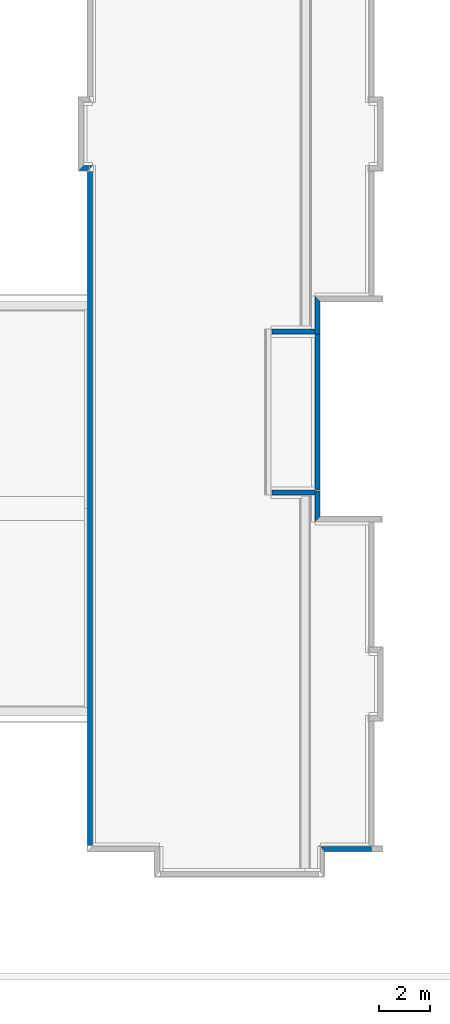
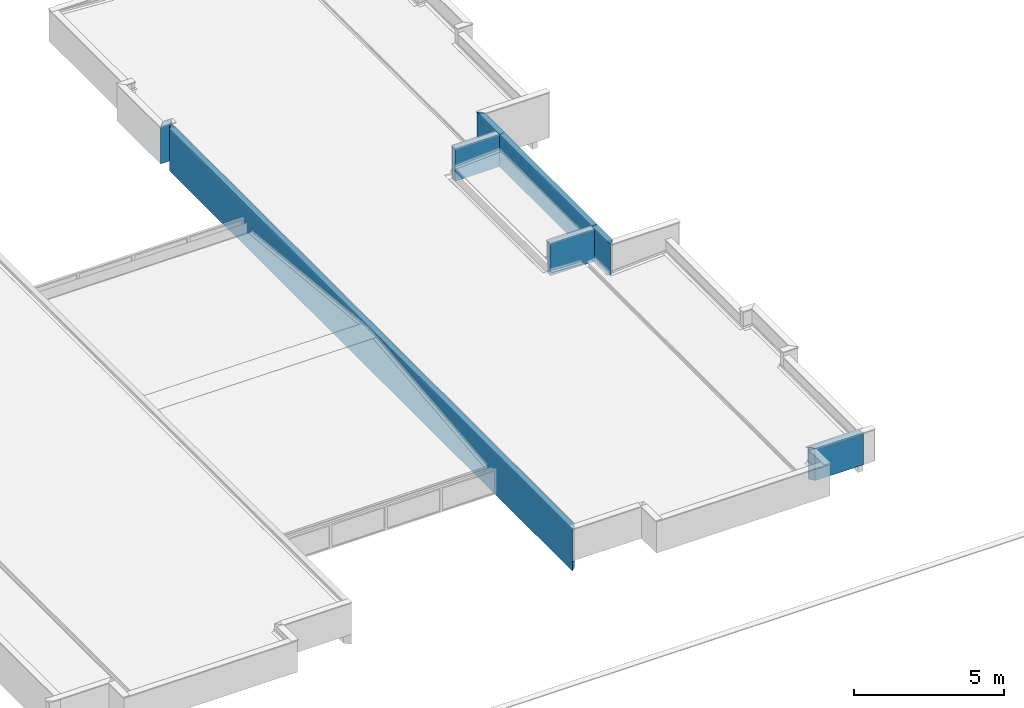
# One storey, part 4 of 25: 8 walls, 3 openings.
"""IFC4 building model written with IfcOpenShell, lengths in metres."""

from ifc_helpers import new_model, entity, si_unit, converted_unit, derived_unit, direction, frame, origin_with_axes, origin_2d_with_axis, place, context, subcontext, project, spatial, line, indexed_curve, rectangle, outline, extrude, polygons, material, layer, layer_set, layer_usage, type_object, element, save


model = new_model("IFC4")

# Units and contexts
model_context = context("Model", 3, precision=1e-05, world=origin_with_axes(), true_north=direction((0.0, 1.0)))
body_context = subcontext(model_context, "Body", "Model", "MODEL_VIEW")
ifc_project = project(units=[si_unit("LENGTHUNIT", "METRE"), si_unit("AREAUNIT", "SQUARE_METRE"), si_unit("VOLUMEUNIT", "CUBIC_METRE"), converted_unit("PLANEANGLEUNIT", "DEGREE", entity("IfcPlaneAngleMeasure", 0.0174532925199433), si_unit("PLANEANGLEUNIT", "RADIAN"), dimensions=[0, 0, 0, 0, 0, 0, 0]), converted_unit("TIMEUNIT", "Year", entity("IfcTimeMeasure", 31557600.0), si_unit("TIMEUNIT", "SECOND"), dimensions=[0, 0, 1, 0, 0, 0, 0]), si_unit("MASSUNIT", "GRAM", prefix="KILO"), si_unit("THERMODYNAMICTEMPERATUREUNIT", "DEGREE_CELSIUS"), si_unit("LUMINOUSINTENSITYUNIT", "LUMEN"), si_unit("ENERGYUNIT", "JOULE", prefix="MEGA"), derived_unit("THERMALCONDUCTANCEUNIT", [(si_unit("POWERUNIT", "WATT"), 1), (si_unit("LENGTHUNIT", "METRE"), -1), (si_unit("THERMODYNAMICTEMPERATUREUNIT", "KELVIN"), -1)]), derived_unit("SPECIFICHEATCAPACITYUNIT", [(si_unit("ENERGYUNIT", "JOULE"), 1), (si_unit("MASSUNIT", "GRAM", prefix="KILO"), -1), (si_unit("THERMODYNAMICTEMPERATUREUNIT", "KELVIN"), -1)]), derived_unit("MASSDENSITYUNIT", [(si_unit("MASSUNIT", "GRAM", prefix="KILO"), 1), (si_unit("VOLUMEUNIT", "CUBIC_METRE"), -1)])], contexts=[model_context])

# Site, building, storey
site_placement = place(None, origin_with_axes())
site = spatial("IfcSite", under=ifc_project, at=site_placement, Name="PADRÃO", CompositionType="ELEMENT")
building_placement = place(site_placement, origin_with_axes())
building = spatial("IfcBuilding", under=site, at=building_placement, Name="CRECHE PRÉ-ESCOLA TIPO 2", CompositionType="ELEMENT")
storey_placement = place(building_placement, frame((0.0, 0.0, 3.26), z_axis=(0.0, 0.0, 1.0), x_axis=(1.0, 0.0, 0.0)))
storey = spatial("IfcBuildingStorey", under=building, at=storey_placement, Name="COBERTURA", CompositionType="ELEMENT", Elevation=3.26)

# Wall
ifc_material_1 = material(Name="EI-REV-Pintura Acrílica Cor Cinza")
ifc_layer_1 = layer(ifc_material_1, 0.015, ventilated="UNKNOWN", Name="EI-REV-Pintura Acrílica Cor Cinza")
ifc_material_2 = material(Name="EI-REV-Massa Acrílica (externa)")
ifc_layer_2 = layer(ifc_material_2, 0.005, ventilated="UNKNOWN", Name="EI-REV-Massa Acrílica (externa) 1")
ifc_material_3 = material(Name="EI-REV-Massa única - Fachada")
ifc_layer_3 = layer(ifc_material_3, 0.005, ventilated="UNKNOWN", Name="EI-REV-Massa única - Fachada 1")
ifc_material_4 = material(Name="EI-REV-Chapisco (externo)")
ifc_layer_4 = layer(ifc_material_4, 0.005, ventilated="UNKNOWN", Name="EI-REV-Chapisco (externo) 1")
ifc_material_5 = material(Name="TIJOLO - CERAMICO 14x19x39 - espessura 20cm")
ifc_layer_5 = layer(ifc_material_5, 0.14, ventilated="UNKNOWN", Name="TIJOLO - CERAMICO 14x19x39 - espessura 20cm")
ifc_layer_6 = layer(ifc_material_4, 0.005, ventilated="UNKNOWN", Name="EI-REV-Chapisco (externo) 2")
ifc_layer_7 = layer(ifc_material_3, 0.005, ventilated="UNKNOWN", Name="EI-REV-Massa única - Fachada 2")
ifc_layer_8 = layer(ifc_material_2, 0.005, ventilated="UNKNOWN", Name="EI-REV-Massa Acrílica (externa) 2")
ifc_material_6 = material(Name="EI-REV-Pintura Acrílica Cor Branco Gelo")
ifc_layer_9 = layer(ifc_material_6, 0.015, ventilated="UNKNOWN", Name="EI-REV-Pintura Acrílica Cor Branco Gelo")
ifc_layer_set_1 = layer_set([ifc_layer_1, ifc_layer_2, ifc_layer_3, ifc_layer_4, ifc_layer_5, ifc_layer_6, ifc_layer_7, ifc_layer_8, ifc_layer_9], Name="FNDE-PLAT_AL14-Pintura cinza-branca")
ifc_layer_usage_1 = layer_usage(ifc_layer_set_1, "AXIS2", "POSITIVE", -0.1)
wall_type_1 = type_object("IfcWallType", Name="FNDE-PLAT_AL14-Pintura cinza-branca 200", PredefinedType="NOTDEFINED")
wall_1_placement = place(storey_placement, frame((-8.27504276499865, 5.15015602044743, 0.0), z_axis=(0.0, 0.0, 1.0), x_axis=(1.0, 0.0, 0.0)))
element("IfcWall", 1, at=wall_1_placement, inside=storey, type_object=wall_type_1, material=ifc_layer_usage_1, Name="AL14", PredefinedType="NOTDEFINED", context=body_context, shape_type="SweptSolid", body=[
    extrude(outline(indexed_curve([(0.0749999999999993, -0.0999999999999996), (1.93499987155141, -0.0999999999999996), (1.93499987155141, 0.100000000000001), (-0.0749999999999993, 0.100000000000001)], segments=[line(1, 2, 3, 4, 1)])), origin_with_axes(), (0.0, 0.0, 1.0), 1.31),
])

# Wall, opening
ifc_layer_10 = layer(ifc_material_6, 0.015, ventilated="UNKNOWN", Name="EI-REV-Pintura Acrílica Cor Branco Gelo 1")
ifc_layer_11 = layer(ifc_material_2, 0.005, ventilated="UNKNOWN", Name="EI-REV-Massa Acrílica (externa) 1")
ifc_layer_12 = layer(ifc_material_3, 0.005, ventilated="UNKNOWN", Name="EI-REV-Massa única - Fachada 1")
ifc_layer_13 = layer(ifc_material_4, 0.005, ventilated="UNKNOWN", Name="EI-REV-Chapisco (externo) 1")
ifc_layer_14 = layer(ifc_material_5, 0.14, ventilated="UNKNOWN", Name="TIJOLO - CERAMICO 14x19x39 - espessura 20cm")
ifc_layer_15 = layer(ifc_material_4, 0.005, ventilated="UNKNOWN", Name="EI-REV-Chapisco (externo) 2")
ifc_layer_16 = layer(ifc_material_3, 0.005, ventilated="UNKNOWN", Name="EI-REV-Massa única - Fachada 2")
ifc_layer_17 = layer(ifc_material_2, 0.005, ventilated="UNKNOWN", Name="EI-REV-Massa Acrílica (externa) 2")
ifc_layer_18 = layer(ifc_material_6, 0.015, ventilated="UNKNOWN", Name="EI-REV-Pintura Acrílica Cor Branco Gelo 2")
ifc_layer_set_2 = layer_set([ifc_layer_10, ifc_layer_11, ifc_layer_12, ifc_layer_13, ifc_layer_14, ifc_layer_15, ifc_layer_16, ifc_layer_17, ifc_layer_18], Name="FNDE-PLAT_AL14-Pintura Branca")
ifc_layer_usage_2 = layer_usage(ifc_layer_set_2, "AXIS2", "NEGATIVE", 0.1)
wall_type_2 = type_object("IfcWallType", Name="FNDE-PLAT_AL14-Pintura Branca 200", PredefinedType="NOTDEFINED")
wall_2_placement = place(storey_placement, frame((-8.47005175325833, 25.5501560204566, 0.54000000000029), z_axis=(0.0, 0.0, 1.0), x_axis=(-1.0, 0.0, 0.0)))
wall_2 = element("IfcWall", 2, at=wall_2_placement, inside=storey, type_object=wall_type_2, material=ifc_layer_usage_2, Name="AL14", PredefinedType="NOTDEFINED", context=body_context, shape_type="SweptSolid", body=[
    extrude(outline(indexed_curve([(0.100000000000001, -0.100000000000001), (1.81996619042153, -0.100000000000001), (1.81996619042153, 0.0999999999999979), (0.100000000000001, 0.0999999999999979)], segments=[line(1, 2, 3, 4, 1)])), origin_with_axes(), (0.0, 0.0, 1.0), 1.32),
])
opening_1_placement = place(wall_2_placement, frame((1.81996619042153, 0.0, 0.0), z_axis=(0.0, 0.0, 1.0), x_axis=(1.0, 0.0, 0.0)))
element("IfcOpeningElement", 3, at=opening_1_placement, cuts=wall_2, Name="AL09", ObjectType="Recess", context=body_context, shape_type="SweptSolid", body=[
    extrude(rectangle(XDim=0.184999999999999, YDim=0.0150000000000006, at=origin_2d_with_axis()), frame((-0.00750000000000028, 0.00750000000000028, 0.0), z_axis=(0.0, 0.0, 1.0), x_axis=(0.0, -1.0, 0.0)), (0.0, 0.0, 1.0), 1.32),
    extrude(rectangle(XDim=0.169999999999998, YDim=0.00499999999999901, at=origin_2d_with_axis()), frame((-0.0174999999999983, 0.0, 0.0), z_axis=(0.0, 0.0, 1.0), x_axis=(0.0, -1.0, 0.0)), (0.0, 0.0, 1.0), 1.32),
    extrude(rectangle(XDim=0.164999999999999, YDim=0.00499999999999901, at=origin_2d_with_axis()), frame((-0.0225000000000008, -0.00250000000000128, 0.0), z_axis=(0.0, 0.0, 1.0), x_axis=(0.0, -1.0, 0.0)), (0.0, 0.0, 1.0), 1.32),
])

ifc_layer_usage_3 = layer_usage(ifc_layer_set_2, "AXIS2", "NEGATIVE", 0.1)
wall_3_placement = place(storey_placement, frame((-10.290017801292, 19.2001560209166, 0.540000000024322), z_axis=(0.0, 0.0, 1.0), x_axis=(1.0, 0.0, 0.0)))
wall_3 = element("IfcWall", 4, at=wall_3_placement, inside=storey, type_object=wall_type_2, material=ifc_layer_usage_3, Name="AL14", PredefinedType="NOTDEFINED", context=body_context, shape_type="SweptSolid", body=[
    extrude(outline(indexed_curve([(0.0, -0.100000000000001), (1.71996604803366, -0.100000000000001), (1.71996604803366, 0.0999999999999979), (0.0, 0.0999999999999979)], segments=[line(1, 2, 3, 4, 1)])), origin_with_axes(), (0.0, 0.0, 1.0), 1.32),
])
opening_2_placement = place(wall_3_placement, origin_with_axes())
element("IfcOpeningElement", 5, at=opening_2_placement, cuts=wall_3, Name="AL09", ObjectType="Recess", context=body_context, shape_type="SweptSolid", body=[
    extrude(rectangle(XDim=0.184999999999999, YDim=0.0150000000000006, at=origin_2d_with_axis()), frame((0.00750000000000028, 0.00749999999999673, 0.0), z_axis=(0.0, 0.0, 1.0), x_axis=(0.0, 1.0, 0.0)), (0.0, 0.0, 1.0), 1.32),
    extrude(rectangle(XDim=0.169999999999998, YDim=0.00499999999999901, at=origin_2d_with_axis()), frame((0.0174999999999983, 0.0, 0.0), z_axis=(0.0, 0.0, 1.0), x_axis=(0.0, 1.0, 0.0)), (0.0, 0.0, 1.0), 1.32),
    extrude(rectangle(XDim=0.164999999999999, YDim=0.00499999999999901, at=origin_2d_with_axis()), frame((0.0225000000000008, -0.00250000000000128, 0.0), z_axis=(0.0, 0.0, 1.0), x_axis=(0.0, 1.0, 0.0)), (0.0, 0.0, 1.0), 1.32),
])

# Wall
ifc_layer_usage_4 = layer_usage(ifc_layer_set_2, "AXIS2", "NEGATIVE", 0.1)
wall_4_placement = place(storey_placement, frame((-17.4400505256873, 5.15015602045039, -0.41), z_axis=(0.0, 0.0, 1.0), x_axis=(0.0, 1.0, 0.0)))
element("IfcWall", 6, at=wall_4_placement, inside=storey, type_object=wall_type_2, material=ifc_layer_usage_4, Name="AL14", PredefinedType="NOTDEFINED", context=body_context, shape_type="SweptSolid", body=[
    extrude(outline(indexed_curve([(0.100000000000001, -0.100000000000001), (26.9500323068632, -0.100000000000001), (26.7500323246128, 0.0999999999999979), (-0.100000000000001, 0.0999999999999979)], segments=[line(1, 2, 3, 4, 1)])), origin_with_axes(), (0.0, 0.0, 1.0), 1.72),
])

# Wall, opening
ifc_layer_usage_5 = layer_usage(ifc_layer_set_2, "AXIS2", "NEGATIVE", 0.1)
wall_5_placement = place(storey_placement, frame((-17.4400505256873, 32.0001883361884, 0.0), z_axis=(0.0, 0.0, 1.0), x_axis=(-0.999999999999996, 8.87479161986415e-08, 0.0)))
wall_5 = element("IfcWall", 7, at=wall_5_placement, inside=storey, type_object=wall_type_2, material=ifc_layer_usage_5, Name="AL14", PredefinedType="NOTDEFINED", context=body_context, shape_type="SweptSolid", body=[
    extrude(outline(indexed_curve([(-0.0999999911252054, -0.100000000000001), (0.249961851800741, -0.100000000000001), (0.449961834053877, 0.0999999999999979), (0.0999999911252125, 0.0999999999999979)], segments=[line(1, 2, 3, 4, 1)])), origin_with_axes(), (0.0, 0.0, 1.0), 1.51),
])
opening_3_placement = place(wall_5_placement, origin_with_axes())
element("IfcOpeningElement", 8, at=opening_3_placement, cuts=wall_5, Name="AL14", ObjectType="Recess", context=body_context, shape_type="Tessellation", body=[
    polygons([(0.0199999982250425, -0.0799999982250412, 0.0), (0.0199999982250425, -0.0799999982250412, 1.51), (0.01999999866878, -0.0849999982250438, 1.51), (0.01999999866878, -0.0849999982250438, 0.0), (0.0249999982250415, -0.0799999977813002, 0.0), (0.0249999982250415, -0.0799999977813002, 1.51), (-8.87478890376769e-09, -8.87479956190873e-09, 1.51), (0.0, -0.100000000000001, 1.51), (0.0150000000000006, -0.0999999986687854, 1.51), (0.014999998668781, -0.0849999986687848, 1.51), (0.0249999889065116, 0.0249999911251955, 1.51), (0.014999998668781, -0.0849999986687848, 0.0), (0.0150000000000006, -0.0999999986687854, 0.0), (0.0, -0.100000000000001, 0.0), (-8.87478890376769e-09, -8.87479956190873e-09, 0.0), (0.0249999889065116, 0.0249999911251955, 0.0)], [[[1, 2, 3, 4]], [[2, 1, 5, 6]], [[7, 8, 9, 10, 3, 2, 6, 11]], [[10, 12, 4, 3]], [[1, 4, 12, 13, 14, 15, 16, 5]], [[11, 6, 5, 16]], [[8, 7, 15, 14]], [[9, 8, 14, 13]], [[12, 10, 9, 13]], [[11, 16, 15, 7]]], closed=True),
])

# Walls
ifc_material_7 = material(Name="EI-REV-Pintura Acrílica Cor Vermelho Externa")
ifc_layer_19 = layer(ifc_material_7, 0.015, ventilated="UNKNOWN", Name="EI-REV-Pintura Acrílica Cor Vermelho Externa")
ifc_layer_20 = layer(ifc_material_2, 0.005, ventilated="UNKNOWN", Name="EI-REV-Massa Acrílica (externa) 1")
ifc_layer_21 = layer(ifc_material_3, 0.005, ventilated="UNKNOWN", Name="EI-REV-Massa única - Fachada 1")
ifc_layer_22 = layer(ifc_material_4, 0.005, ventilated="UNKNOWN", Name="EI-REV-Chapisco (externo) 1")
ifc_layer_23 = layer(ifc_material_5, 0.14, ventilated="UNKNOWN", Name="TIJOLO - CERAMICO 14x19x39 - espessura 20cm")
ifc_layer_24 = layer(ifc_material_4, 0.005, ventilated="UNKNOWN", Name="EI-REV-Chapisco (externo) 2")
ifc_layer_25 = layer(ifc_material_3, 0.005, ventilated="UNKNOWN", Name="EI-REV-Massa única - Fachada 2")
ifc_layer_26 = layer(ifc_material_2, 0.005, ventilated="UNKNOWN", Name="EI-REV-Massa Acrílica (externa) 2")
ifc_layer_27 = layer(ifc_material_6, 0.015, ventilated="UNKNOWN", Name="EI-REV-Pintura Acrílica Cor Branco Gelo")
ifc_layer_set_3 = layer_set([ifc_layer_19, ifc_layer_20, ifc_layer_21, ifc_layer_22, ifc_layer_23, ifc_layer_24, ifc_layer_25, ifc_layer_26, ifc_layer_27], Name="FNDE-PLAT_AL14-E4 (Pintura vermelha)")
ifc_layer_usage_6 = layer_usage(ifc_layer_set_3, "AXIS2", "NEGATIVE", 0.1)
wall_type_3 = type_object("IfcWallType", Name="FNDE-PLAT_AL14-E4 (Pintura vermelha) 200", PredefinedType="NOTDEFINED")
wall_6_placement = place(storey_placement, frame((-8.47005175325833, 19.2701560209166, 0.540672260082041), z_axis=(0.0, 0.0, 1.0), x_axis=(0.0, -1.0, 0.0)))
element("IfcWall", 9, at=wall_6_placement, inside=storey, type_object=wall_type_3, material=ifc_layer_usage_6, Name="AL14", PredefinedType="NOTDEFINED", context=body_context, shape_type="SweptSolid", body=[
    extrude(outline(indexed_curve([(0.0, -0.100000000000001), (1.2200012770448, -0.100000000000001), (1.02000127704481, 0.0999999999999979), (0.0, 0.0999999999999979)], segments=[line(1, 2, 3, 4, 1)])), origin_with_axes(), (0.0, 0.0, 1.0), 1.32),
])
ifc_layer_usage_7 = layer_usage(ifc_layer_set_3, "AXIS2", "NEGATIVE", 0.1)
wall_7_placement = place(storey_placement, frame((-8.47005175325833, 26.8501567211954, 0.54000000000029), z_axis=(0.0, 0.0, 1.0), x_axis=(0.0, -1.0, 0.0)))
element("IfcWall", 10, at=wall_7_placement, inside=storey, type_object=wall_type_3, material=ifc_layer_usage_7, Name="AL14", PredefinedType="NOTDEFINED", context=body_context, shape_type="SweptSolid", body=[
    extrude(outline(indexed_curve([(-0.100000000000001, -0.100000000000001), (1.40000070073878, -0.100000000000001), (1.40000070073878, 0.0999999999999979), (0.0999999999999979, 0.0999999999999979)], segments=[line(1, 2, 3, 4, 1)])), origin_with_axes(), (0.0, 0.0, 1.0), 1.32),
])
ifc_layer_usage_8 = layer_usage(ifc_layer_set_3, "AXIS2", "NEGATIVE", 0.1)
wall_8_placement = place(storey_placement, frame((-8.47005175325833, 25.4501560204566, 0.54000000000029), z_axis=(0.0, 0.0, 1.0), x_axis=(0.0, -1.0, 0.0)))
element("IfcWall", 11, at=wall_8_placement, inside=storey, type_object=wall_type_3, material=ifc_layer_usage_8, Name="AL14", PredefinedType="NOTDEFINED", context=body_context, shape_type="SweptSolid", body=[
    extrude(outline(indexed_curve([(0.0, -0.100000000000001), (6.14999921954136, -0.100000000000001), (6.14999921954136, 0.0999999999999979), (0.0, 0.0999999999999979)], segments=[line(1, 2, 3, 4, 1)])), origin_with_axes(), (0.0, 0.0, 1.0), 1.32),
])

save(model, "model.ifc")
